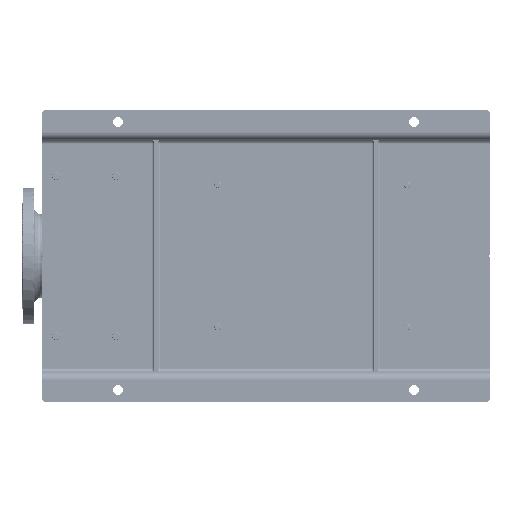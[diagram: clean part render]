
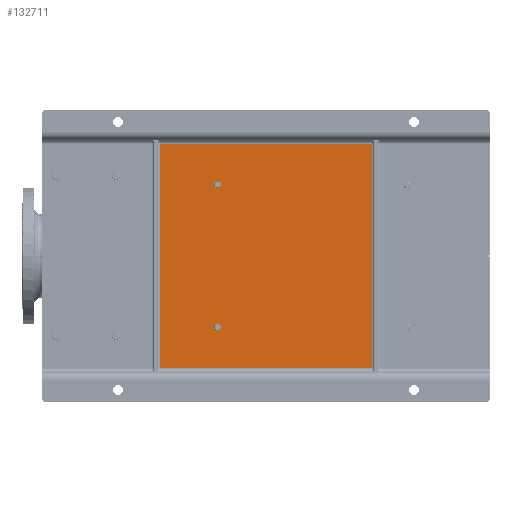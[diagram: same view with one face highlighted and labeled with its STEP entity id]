
A CAD part, front view. The second image highlights one B-rep face of the part: STEP entity #132711.
In plain terms, the highlighted planar face has unit normal (0, -1, 0).
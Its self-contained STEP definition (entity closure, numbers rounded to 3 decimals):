
#1632 = DIRECTION ( 'NONE',  ( 0., -1., 0. ) ) ;
#2433 = ORIENTED_EDGE ( 'NONE', *, *, #179060, .T. ) ;
#3365 = EDGE_CURVE ( 'NONE', #25101, #94531, #27913, .T. ) ;
#5096 = LINE ( 'NONE', #175249, #171159 ) ;
#11940 = AXIS2_PLACEMENT_3D ( 'NONE', #44180, #157024, #100612 ) ;
#12161 = CARTESIAN_POINT ( 'NONE',  ( 85., 90., -830. ) ) ;
#13981 = LINE ( 'NONE', #12161, #42635 ) ;
#15087 = EDGE_CURVE ( 'NONE', #123939, #151994, #13981, .T. ) ;
#19814 = ORIENTED_EDGE ( 'NONE', *, *, #15087, .T. ) ;
#25101 = VERTEX_POINT ( 'NONE', #152624 ) ;
#25594 = EDGE_CURVE ( 'NONE', #99396, #123939, #5096, .T. ) ;
#25881 = VECTOR ( 'NONE', #98040, 1000. ) ;
#26162 = LINE ( 'NONE', #70733, #25881 ) ;
#27913 = CIRCLE ( 'NONE', #158646, 8. ) ;
#28039 = CARTESIAN_POINT ( 'NONE',  ( 85., 90., -295. ) ) ;
#32255 = DIRECTION ( 'NONE',  ( 1., 0., 0. ) ) ;
#32697 = DIRECTION ( 'NONE',  ( 0., -1., 0. ) ) ;
#33624 = CIRCLE ( 'NONE', #129522, 8. ) ;
#34306 = DIRECTION ( 'NONE',  ( 0., -1., 0. ) ) ;
#35382 = FACE_BOUND ( 'NONE', #150405, .T. ) ;
#36260 = PLANE ( 'NONE',  #148755 ) ;
#42573 = CARTESIAN_POINT ( 'NONE',  ( 187., 90., -447. ) ) ;
#42635 = VECTOR ( 'NONE', #67682, 1000. ) ;
#44180 = CARTESIAN_POINT ( 'NONE',  ( 543., 90., -439. ) ) ;
#47499 = EDGE_CURVE ( 'NONE', #151994, #87323, #102352, .T. ) ;
#50500 = DIRECTION ( 'NONE',  ( -1., 0., 0. ) ) ;
#51114 = ORIENTED_EDGE ( 'NONE', *, *, #47499, .T. ) ;
#55830 = CARTESIAN_POINT ( 'NONE',  ( 645., 90., -825. ) ) ;
#58021 = CARTESIAN_POINT ( 'NONE',  ( 187., 90., -439. ) ) ;
#59413 = EDGE_LOOP ( 'NONE', ( #143041, #160874 ) ) ;
#59993 = CARTESIAN_POINT ( 'NONE',  ( 75., 90., -1120. ) ) ;
#61267 = ORIENTED_EDGE ( 'NONE', *, *, #124237, .F. ) ;
#67682 = DIRECTION ( 'NONE',  ( 0., 0., -1. ) ) ;
#70733 = CARTESIAN_POINT ( 'NONE',  ( 645., 90., -290. ) ) ;
#76796 = CARTESIAN_POINT ( 'NONE',  ( 75., 90., -825. ) ) ;
#87323 = VERTEX_POINT ( 'NONE', #55830 ) ;
#90883 = DIRECTION ( 'NONE',  ( 0., -1., 0. ) ) ;
#90885 = DIRECTION ( 'NONE',  ( 0., 0., -1. ) ) ;
#92471 = DIRECTION ( 'NONE',  ( 0., 0., -1. ) ) ;
#94531 = VERTEX_POINT ( 'NONE', #42573 ) ;
#97566 = ORIENTED_EDGE ( 'NONE', *, *, #128901, .F. ) ;
#98040 = DIRECTION ( 'NONE',  ( 0., 0., 1. ) ) ;
#99396 = VERTEX_POINT ( 'NONE', #177834 ) ;
#100612 = DIRECTION ( 'NONE',  ( 0., 0., -1. ) ) ;
#102352 = LINE ( 'NONE', #76796, #130043 ) ;
#103489 = CARTESIAN_POINT ( 'NONE',  ( 543., 90., -439. ) ) ;
#103546 = CIRCLE ( 'NONE', #158781, 8. ) ;
#104595 = CARTESIAN_POINT ( 'NONE',  ( 187., 90., -439. ) ) ;
#112720 = EDGE_LOOP ( 'NONE', ( #19814, #51114, #2433, #166680 ) ) ;
#118238 = FACE_OUTER_BOUND ( 'NONE', #112720, .T. ) ;
#121169 = VERTEX_POINT ( 'NONE', #133209 ) ;
#123939 = VERTEX_POINT ( 'NONE', #28039 ) ;
#124009 = EDGE_CURVE ( 'NONE', #94531, #25101, #33624, .T. ) ;
#124237 = EDGE_CURVE ( 'NONE', #125294, #121169, #103546, .T. ) ;
#125294 = VERTEX_POINT ( 'NONE', #163104 ) ;
#128901 = EDGE_CURVE ( 'NONE', #121169, #125294, #131119, .T. ) ;
#129522 = AXIS2_PLACEMENT_3D ( 'NONE', #58021, #1632, #154555 ) ;
#130043 = VECTOR ( 'NONE', #32255, 1000. ) ;
#131119 = CIRCLE ( 'NONE', #11940, 8. ) ;
#132711 = ADVANCED_FACE ( 'NONE', ( #35382, #160987, #118238 ), #36260, .T. ) ;
#132807 = DIRECTION ( 'NONE',  ( 0., 0., -1. ) ) ;
#133209 = CARTESIAN_POINT ( 'NONE',  ( 543., 90., -447. ) ) ;
#143041 = ORIENTED_EDGE ( 'NONE', *, *, #3365, .F. ) ;
#148755 = AXIS2_PLACEMENT_3D ( 'NONE', #59993, #90883, #132807 ) ;
#150405 = EDGE_LOOP ( 'NONE', ( #61267, #97566 ) ) ;
#151994 = VERTEX_POINT ( 'NONE', #158675 ) ;
#152624 = CARTESIAN_POINT ( 'NONE',  ( 187., 90., -431. ) ) ;
#154555 = DIRECTION ( 'NONE',  ( 0., 0., -1. ) ) ;
#157024 = DIRECTION ( 'NONE',  ( 0., -1., 0. ) ) ;
#158646 = AXIS2_PLACEMENT_3D ( 'NONE', #104595, #32697, #90885 ) ;
#158675 = CARTESIAN_POINT ( 'NONE',  ( 85., 90., -825. ) ) ;
#158781 = AXIS2_PLACEMENT_3D ( 'NONE', #103489, #34306, #92471 ) ;
#160874 = ORIENTED_EDGE ( 'NONE', *, *, #124009, .F. ) ;
#160987 = FACE_BOUND ( 'NONE', #59413, .T. ) ;
#163104 = CARTESIAN_POINT ( 'NONE',  ( 543., 90., -431. ) ) ;
#166680 = ORIENTED_EDGE ( 'NONE', *, *, #25594, .T. ) ;
#171159 = VECTOR ( 'NONE', #50500, 1000. ) ;
#175249 = CARTESIAN_POINT ( 'NONE',  ( 75., 90., -295. ) ) ;
#177834 = CARTESIAN_POINT ( 'NONE',  ( 645., 90., -295. ) ) ;
#179060 = EDGE_CURVE ( 'NONE', #87323, #99396, #26162, .T. ) ;
